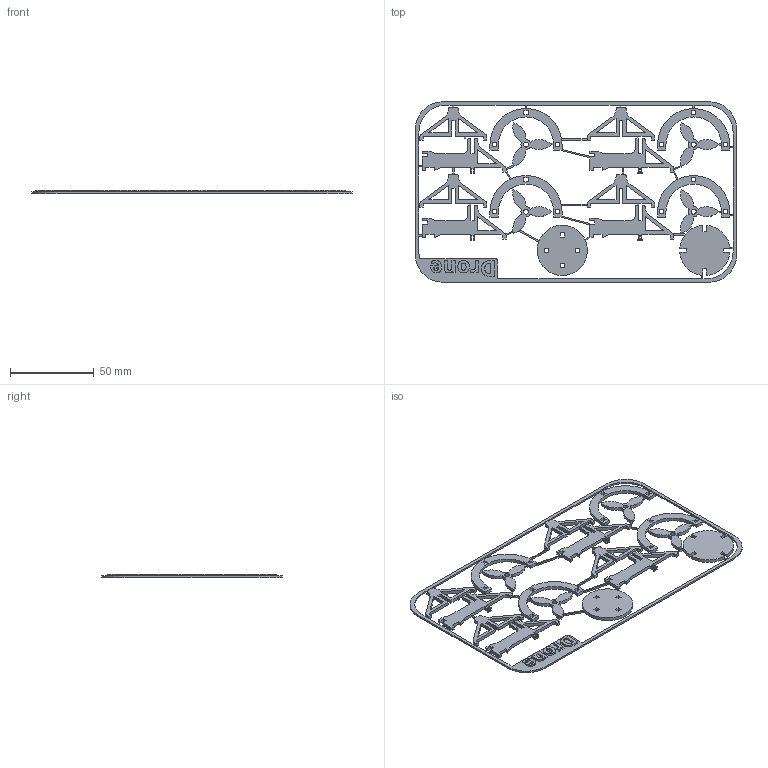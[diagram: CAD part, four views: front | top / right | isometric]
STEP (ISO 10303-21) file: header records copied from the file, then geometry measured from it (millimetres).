
FILE_DESCRIPTION(/* description */ ('STEP AP242','CAx-IF Rec.Pracs.---Representation and Presentation of Product Manufacturing Information (PMI)---4.0---2014-10-13','CAx-IF Rec.Pracs.---3D Tessellated Geometry---0.4---2014-09-14','2;1'),/* implementation_level */ '2;1');
FILE_NAME(/* name */ '64a99cba2227c45aa4b19d77',/* time_stamp */ '2023-07-08T17:28:27Z',/* author */ (''),/* organization */ (''),/* preprocessor_version */ 'ST-DEVELOPER v19.4',/* originating_system */ ' ',/* authorisation */ ' ');
FILE_SCHEMA (('AP242_MANAGED_MODEL_BASED_3D_ENGINEERING_MIM_LF { 1 0 10303 442 1 1 4 }'));
Length unit declared in the file: metre
Products named in the file (41): Part 34; Part 63; Part 48; Part 58; Part 52; Part 56; Part 55; Part 59; Part 60; Part 62; Part 50; Part 65; Part 44; Part 49; Part 27; Part 46; Part 43; Part 39; Part 42; Part 41; Part 40; Part 37; Part 38; Part 32; Part 36; Part 35; Part 26; Part 29; Part 31; Part 33; Part 25; Part 28; Part 30; Part 47; Part 51; Part 53; Part 57; Part 64; Part 45; Part 54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
Bounding box: 191.36 x 107.53 x 2 mm (x, y, z)
Volume: 13582.2 mm3; surface area: 22754.9 mm2
Topology: 41 solids, 41 shells, 774 faces, 2052 edges, 1368 vertices
Faces by surface type: plane 594, cylinder 126, bspline 54
Full cylindrical faces by diameter (mm): 3 x4, 30 x1
Entity records: 25080 total; most frequent: CARTESIAN_POINT 4824, ORIENTED_EDGE 4094, DIRECTION 3713, EDGE_CURVE 2047, LINE 1687, VECTOR 1687, VERTEX_POINT 1368, AXIS2_PLACEMENT_3D 1013
